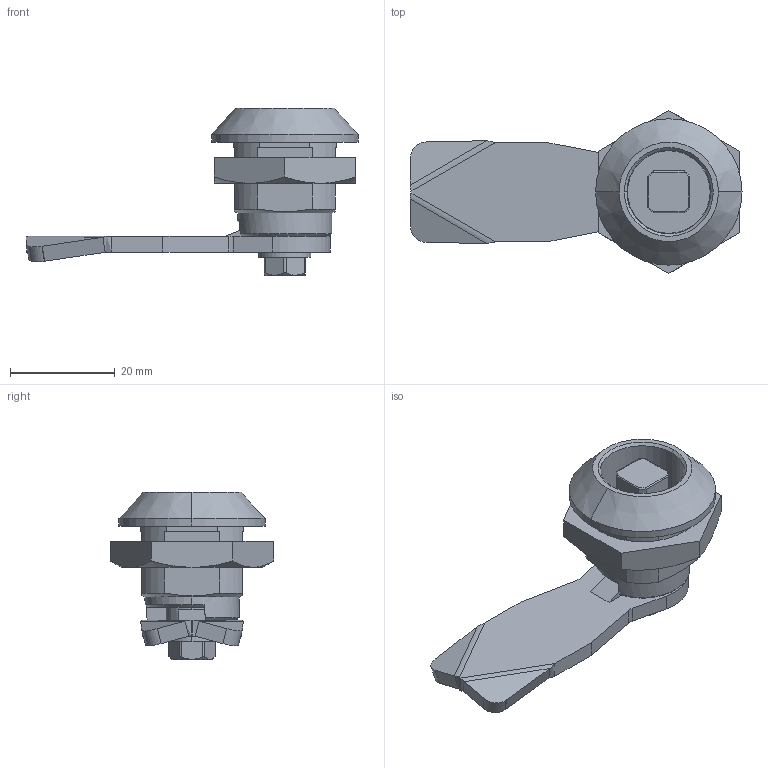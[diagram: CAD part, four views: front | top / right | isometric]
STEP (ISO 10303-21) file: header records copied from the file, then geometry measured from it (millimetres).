
FILE_DESCRIPTION (( 'STEP AP214' ), '1' );
FILE_NAME ('2.M22-KW8.00.00.00.STEP', '2010-02-11T15:41:14', ( 'Rak' ), ( 'ROZTOCZE' ), 'SwSTEP 2.0', 'SolidWorks 2004231', '' );
FILE_SCHEMA (( 'AUTOMOTIVE_DESIGN' ));
Length unit declared in the file: millimetre
Products named in the file (8): oring2x12_Domyœlna_Domyœlna; 2.M22.02.00.00.(Kw8)_Domyœlna_Domyœlna; M22.03.00.00_Domyœlna_Domyœlna; 1C.J-10018.00.03.00_Domyœlna_Domyœlna; 2.M22.06.01.00_Domyœlna_Domyœlna; sruba M6_Domyœlna_Domyœlna; 2.M22-KW8.00.00.00; 2.M22.01.03.00_Domyœlna_Domyœlna
Assembly tree (7 placements, depth 2):
  2.M22-KW8.00.00.00
    sruba M6_Domyœlna_Domyœlna
    1C.J-10018.00.03.00_Domyœlna_Domyœlna
    M22.03.00.00_Domyœlna_Domyœlna
    2.M22.01.03.00_Domyœlna_Domyœlna
    oring2x12_Domyœlna_Domyœlna
    2.M22.02.00.00.(Kw8)_Domyœlna_Domyœlna
    2.M22.06.01.00_Domyœlna_Domyœlna
Bounding box: 63.49 x 31.18 x 32 mm (x, y, z)
Volume: 11877.4 mm3; surface area: 9786.6 mm2
Topology: 7 solids, 7 shells, 185 faces, 444 edges, 279 vertices
Faces by surface type: plane 84, cylinder 55, cone 26, bspline 20
Entity records: 10446 total; most frequent: CARTESIAN_POINT 3965, ORIENTED_EDGE 884, DIRECTION 849, EDGE_CURVE 442, AXIS2_PLACEMENT_3D 311, VERTEX_POINT 279, VECTOR 227, LINE 227
